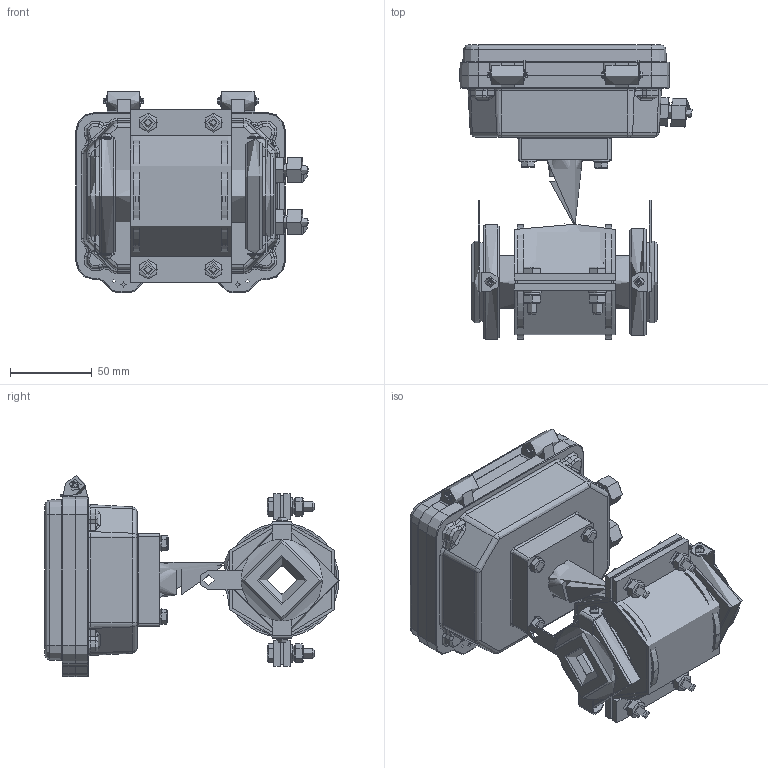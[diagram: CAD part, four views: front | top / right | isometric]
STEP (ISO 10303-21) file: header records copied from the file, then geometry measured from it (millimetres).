
FILE_DESCRIPTION(('STEP AP214'), '1');
FILE_NAME('Âçëåò ÝÐ ÏÐÎÔÈ DN20 Ñýíäâè÷', '', ('UNSPECIFIED'), ('UNSPECIFIED'), 'ASCON STEP Converter 1.6', 'ASCON Math Kernel', '');
FILE_SCHEMA(('AUTOMOTIVE_DESIGN { 1 0 10303 214 3 1 1}'));
Length unit declared in the file: millimetre
Products named in the file (1): 婽挭.407212.031-001.04
Bounding box: 142.42 x 180.32 x 123.45 mm (x, y, z)
Topology: 5 solids, 10 shells, 1443 faces, 3536 edges, 2156 vertices
Faces by surface type: plane 665, cylinder 416, cone 169, torus 151, bspline 38, sphere 4
Full cylindrical faces by diameter (mm): 2 x2, 3 x4, 3.242 x14, 3.3 x2, 4 x14, 5 x5, 5.5 x1, 6 x12, 6.4 x4, 7 x19, 7.5 x2, 8 x2, 10 x4, 11 x4, 12 x8, 12.5 x2, 16.5 x2, 18 x2, 19 x1, 20 x1, 21 x2, 24 x2, 25 x1, 26 x2, 28 x2, 30 x1, 32 x1, 32.3 x2, 48 x2, 50 x2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
Entity records: 73123 total; most frequent: CARTESIAN_POINT 23297, DIRECTION 7157, ORIENTED_EDGE 6430, EDGE_CURVE 3215, AXIS2_PLACEMENT_3D 2802, VERTEX_POINT 2130, EDGE_LOOP 1885, LINE 1553
